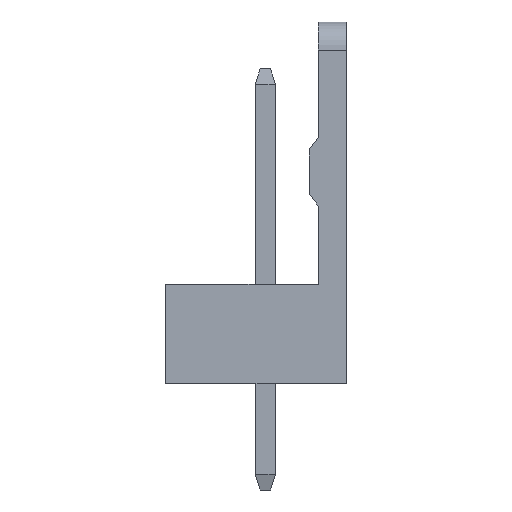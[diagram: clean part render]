
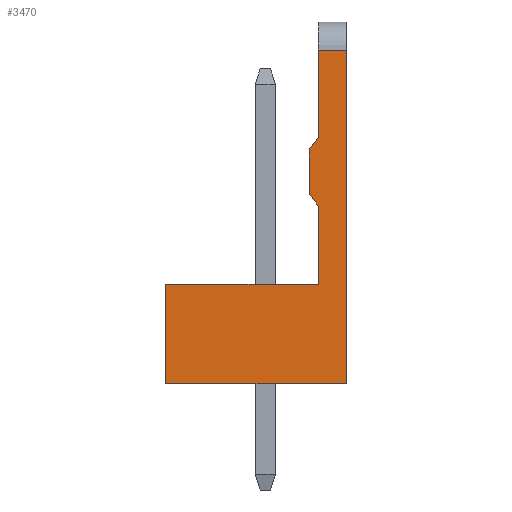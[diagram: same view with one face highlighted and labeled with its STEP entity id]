
A CAD part, left-side view. The second image highlights one B-rep face of the part: STEP entity #3470.
In plain terms, the highlighted planar face has unit normal (-1, 0, 0).
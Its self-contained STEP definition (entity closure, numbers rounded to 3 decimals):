
#61=CARTESIAN_POINT('Vertex',(-15.24,0.9,3.2)) ;
#66=CARTESIAN_POINT('Line Origine',(-15.24,0.9,4.45)) ;
#70=CARTESIAN_POINT('Vertex',(-15.24,0.9,5.7)) ;
#97=CARTESIAN_POINT('Line Origine',(-15.24,1.05,5.9)) ;
#101=CARTESIAN_POINT('Vertex',(-15.24,1.2,6.1)) ;
#128=CARTESIAN_POINT('Line Origine',(-15.24,1.2,6.8)) ;
#132=CARTESIAN_POINT('Vertex',(-15.24,1.2,7.5)) ;
#159=CARTESIAN_POINT('Line Origine',(-15.24,1.05,7.7)) ;
#163=CARTESIAN_POINT('Vertex',(-15.24,0.9,7.9)) ;
#3052=CARTESIAN_POINT('Vertex',(-15.24,0.,0.)) ;
#3057=CARTESIAN_POINT('Line Origine',(-15.24,2.9,0.)) ;
#3061=CARTESIAN_POINT('Vertex',(-15.24,5.8,0.)) ;
#3110=CARTESIAN_POINT('Line Origine',(-15.24,5.8,1.6)) ;
#3114=CARTESIAN_POINT('Vertex',(-15.24,5.8,3.2)) ;
#3251=CARTESIAN_POINT('Line Origine',(-15.24,3.35,3.2)) ;
#3434=CARTESIAN_POINT('Axis2P3D Location',(-15.24,0.,0.)) ;
#3439=CARTESIAN_POINT('Line Origine',(-15.24,0.45,10.7)) ;
#3443=CARTESIAN_POINT('Vertex',(-15.24,0.9,10.7)) ;
#3445=CARTESIAN_POINT('Vertex',(-15.24,0.,10.7)) ;
#3448=CARTESIAN_POINT('Line Origine',(-15.24,0.9,9.3)) ;
#3453=CARTESIAN_POINT('Line Origine',(-15.24,0.,5.35)) ;
#67=DIRECTION('Vector Direction',(0.,0.,1.)) ;
#98=DIRECTION('Vector Direction',(0.,0.6,0.8)) ;
#129=DIRECTION('Vector Direction',(0.,0.,1.)) ;
#160=DIRECTION('Vector Direction',(0.,-0.6,0.8)) ;
#3058=DIRECTION('Vector Direction',(0.,1.,0.)) ;
#3111=DIRECTION('Vector Direction',(0.,0.,1.)) ;
#3252=DIRECTION('Vector Direction',(0.,-1.,0.)) ;
#3435=DIRECTION('Axis2P3D Direction',(1.,0.,0.)) ;
#3436=DIRECTION('Axis2P3D XDirection',(0.,1.,0.)) ;
#3440=DIRECTION('Vector Direction',(0.,-1.,0.)) ;
#3449=DIRECTION('Vector Direction',(0.,0.,1.)) ;
#3454=DIRECTION('Vector Direction',(0.,0.,-1.)) ;
#3437=AXIS2_PLACEMENT_3D('Plane Axis2P3D',#3434,#3435,#3436) ;
#3459=ORIENTED_EDGE('',*,*,#3447,.F.) ;
#3460=ORIENTED_EDGE('',*,*,#3452,.F.) ;
#3461=ORIENTED_EDGE('',*,*,#165,.F.) ;
#3462=ORIENTED_EDGE('',*,*,#134,.F.) ;
#3463=ORIENTED_EDGE('',*,*,#103,.F.) ;
#3464=ORIENTED_EDGE('',*,*,#72,.F.) ;
#3465=ORIENTED_EDGE('',*,*,#3255,.F.) ;
#3466=ORIENTED_EDGE('',*,*,#3116,.F.) ;
#3467=ORIENTED_EDGE('',*,*,#3063,.F.) ;
#3468=ORIENTED_EDGE('',*,*,#3457,.F.) ;
#68=VECTOR('Line Direction',#67,1.) ;
#99=VECTOR('Line Direction',#98,1.) ;
#130=VECTOR('Line Direction',#129,1.) ;
#161=VECTOR('Line Direction',#160,1.) ;
#3059=VECTOR('Line Direction',#3058,1.) ;
#3112=VECTOR('Line Direction',#3111,1.) ;
#3253=VECTOR('Line Direction',#3252,1.) ;
#3441=VECTOR('Line Direction',#3440,1.) ;
#3450=VECTOR('Line Direction',#3449,1.) ;
#3455=VECTOR('Line Direction',#3454,1.) ;
#3470=ADVANCED_FACE('\X2\96F64EF651E04F554F53\X0\',(#3469),#3438,.F.) ;
#72=EDGE_CURVE('',#62,#71,#69,.T.) ;
#103=EDGE_CURVE('',#71,#102,#100,.T.) ;
#134=EDGE_CURVE('',#102,#133,#131,.T.) ;
#165=EDGE_CURVE('',#133,#164,#162,.T.) ;
#3063=EDGE_CURVE('',#3053,#3062,#3060,.T.) ;
#3116=EDGE_CURVE('',#3062,#3115,#3113,.T.) ;
#3255=EDGE_CURVE('',#3115,#62,#3254,.T.) ;
#3447=EDGE_CURVE('',#3444,#3446,#3442,.T.) ;
#3452=EDGE_CURVE('',#164,#3444,#3451,.T.) ;
#3457=EDGE_CURVE('',#3446,#3053,#3456,.T.) ;
#3458=EDGE_LOOP('',(#3459,#3460,#3461,#3462,#3463,#3464,#3465,#3466,#3467,#3468)) ;
#3469=FACE_OUTER_BOUND('',#3458,.T.) ;
#69=LINE('Line',#66,#68) ;
#100=LINE('Line',#97,#99) ;
#131=LINE('Line',#128,#130) ;
#162=LINE('Line',#159,#161) ;
#3060=LINE('Line',#3057,#3059) ;
#3113=LINE('Line',#3110,#3112) ;
#3254=LINE('Line',#3251,#3253) ;
#3442=LINE('Line',#3439,#3441) ;
#3451=LINE('Line',#3448,#3450) ;
#3456=LINE('Line',#3453,#3455) ;
#3438=PLANE('Plane',#3437) ;
#62=VERTEX_POINT('',#61) ;
#71=VERTEX_POINT('',#70) ;
#102=VERTEX_POINT('',#101) ;
#133=VERTEX_POINT('',#132) ;
#164=VERTEX_POINT('',#163) ;
#3053=VERTEX_POINT('',#3052) ;
#3062=VERTEX_POINT('',#3061) ;
#3115=VERTEX_POINT('',#3114) ;
#3444=VERTEX_POINT('',#3443) ;
#3446=VERTEX_POINT('',#3445) ;
